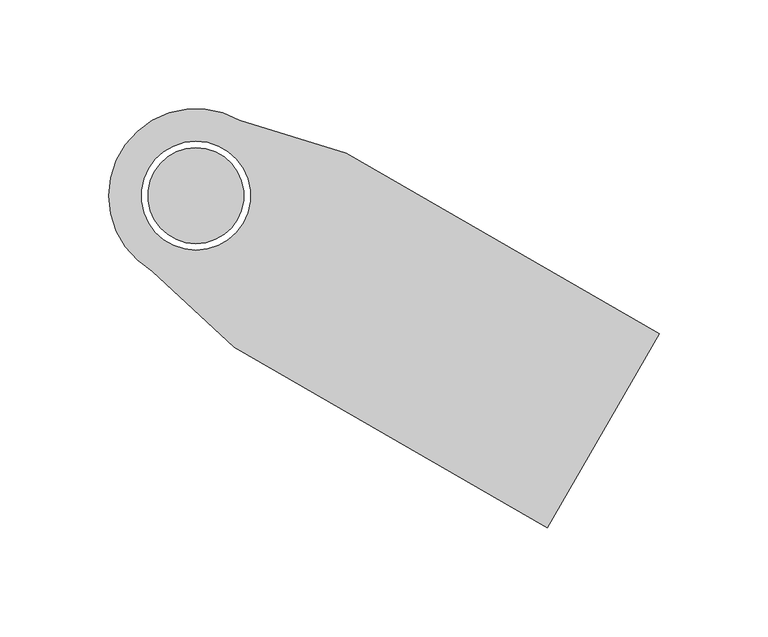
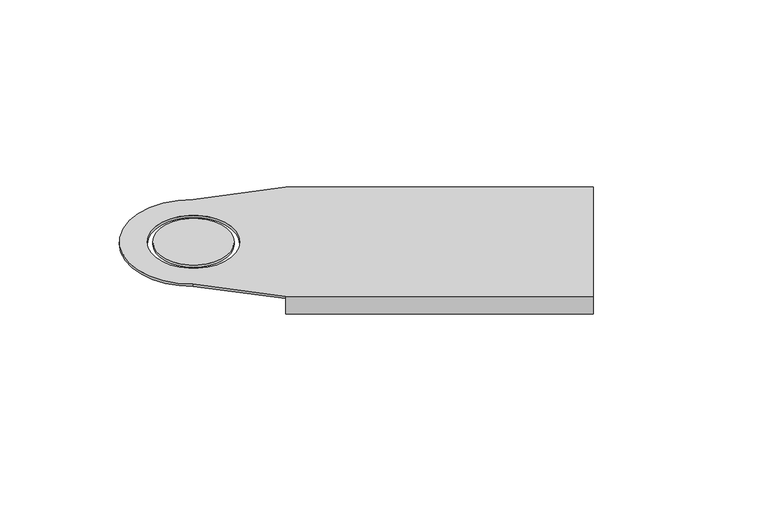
"""IFC4 building model written with IfcOpenShell, lengths in millimetres: cable carrier fitting geometry, BAKS_LDLS_BEND_Articulated connector for LLDS_LGSU : LGSUP_H100."""

import ifcopenshell
import ifcopenshell.guid

model = None  # the IFC model being written
_history = None  # IfcOwnerHistory: only IFC2X3 demands one
_inside = {}  # id of a spatial element -> (the spatial element, [elements in it])
_under = {}  # id of a project, library or spatial element -> (it, [spatial elements below it])
_declared = {}  # id of a project -> (the project, [libraries it declares])
_typed = {}  # id of a type object -> (the type object, [elements of that type])
_made_of = {}  # id of a material, layer set ... -> (it, [elements and type objects made of it])


def new_model(schema):
    """Start an empty IFC model of exactly this schema.

    Asked for "IFC4X3", IfcOpenShell would pick the latest addendum, in which some entities
    have other attributes; the version numbers below select the first issue.
    IFC2X3 requires an IfcOwnerHistory on every rooted entity: one is made here for all.
    """
    global model, _history
    if schema == "IFC4X3":
        model = ifcopenshell.file(schema_version=(4, 3, 0, 0))
    else:
        model = ifcopenshell.file(schema=schema)
    _inside.clear()
    _under.clear()
    _declared.clear()
    _typed.clear()
    _made_of.clear()
    _history = None
    if model.schema == "IFC2X3":
        org = make("IfcOrganization", Name="unknown")
        user = make(
            "IfcPersonAndOrganization",
            ThePerson=make("IfcPerson", FamilyName="unknown"),
            TheOrganization=org,
        )
        app = make(
            "IfcApplication",
            ApplicationDeveloper=org,
            Version="unknown",
            ApplicationFullName="unknown",
            ApplicationIdentifier="unknown",
        )
        _history = make(
            "IfcOwnerHistory",
            OwningUser=user,
            OwningApplication=app,
            ChangeAction="ADDED",
            CreationDate=0,
        )
    return model


def make(cls, **values):
    """One entity of the class cls with the attributes given. An attribute that is None is left unset."""
    return model.create_entity(
        cls, **{name: value for name, value in values.items() if value is not None}
    )


def rooted(cls, **values):
    """An entity with a GlobalId (a new one), such as an element, a storey or a relation."""
    return make(cls, GlobalId=ifcopenshell.guid.new(), OwnerHistory=_history, **values)


def si_unit(unit_type, name, prefix=None):
    """IfcSIUnit, for example si_unit("LENGTHUNIT", "METRE", prefix="MILLI")."""
    return make("IfcSIUnit", UnitType=unit_type, Prefix=prefix, Name=name)


def assignment(units):
    """IfcUnitAssignment: the units of a project."""
    return None if units is None else make("IfcUnitAssignment", Units=units)


def point(xyz):
    """IfcCartesianPoint."""
    return None if xyz is None else make("IfcCartesianPoint", Coordinates=xyz)


def direction(xyz):
    """IfcDirection."""
    return None if xyz is None else make("IfcDirection", DirectionRatios=xyz)


def frame(location, z_axis=None, x_axis=None):
    """IfcAxis2Placement3D, a coordinate frame: its origin and axes. An axis left out is left unset."""
    return make(
        "IfcAxis2Placement3D",
        Location=point(location),
        Axis=direction(z_axis),
        RefDirection=direction(x_axis),
    )


def origin():
    """The frame at (0, 0, 0) with its axes left unset."""
    return frame((0.0, 0.0, 0.0))


def place(relative_to, where):
    """IfcLocalPlacement: puts the frame where relative to a parent placement (None: the world)."""
    return make(
        "IfcLocalPlacement", PlacementRelTo=relative_to, RelativePlacement=where
    )


def context(
    kind, dimensions, precision=None, world=None, true_north=None, identifier=None
):
    """IfcGeometricRepresentationContext, for example the 3D "Model" context."""
    return make(
        "IfcGeometricRepresentationContext",
        ContextIdentifier=identifier,
        ContextType=kind,
        CoordinateSpaceDimension=dimensions,
        Precision=precision,
        WorldCoordinateSystem=world,
        TrueNorth=true_north,
    )


def project(units=None, contexts=None):
    """IfcProject with its units and contexts."""
    return rooted(
        "IfcProject",
        Name="project",
        RepresentationContexts=contexts,
        UnitsInContext=assignment(units),
    )


def spatial(cls, under=None, at=None, **own):
    """A site, building, storey or space (cls), placed at a placement, below another one or the project."""
    s = rooted(cls, ObjectPlacement=at, **own)
    if under is not None:
        _under.setdefault(under.id(), (under, []))[1].append(s)
    return s


def polyline(points):
    """IfcPolyline through the points."""
    return make("IfcPolyline", Points=[point(p) for p in points])


def circle_curve(where, radius):
    """IfcCircle in the frame where."""
    return make("IfcCircle", Position=where, Radius=radius)


def shape(context_of_items, identifier, shape_type, items):
    """IfcShapeRepresentation: the items that make up one representation, for example the "Body"."""
    return make(
        "IfcShapeRepresentation",
        ContextOfItems=context_of_items,
        RepresentationIdentifier=identifier,
        RepresentationType=shape_type,
        Items=items,
    )


def source(mapping_origin, context_of_items, identifier, shape_type, items):
    """IfcRepresentationMap: a shape defined once, which mapped items show again and again."""
    return make(
        "IfcRepresentationMap",
        MappingOrigin=mapping_origin,
        MappedRepresentation=shape(context_of_items, identifier, shape_type, items),
    )


def transform(
    local_origin,
    x_axis=None,
    y_axis=None,
    z_axis=None,
    scale=None,
    scale2=None,
    scale3=None,
    uniform=True,
):
    """IfcCartesianTransformationOperator3D, or its non-uniform kind. x_axis, y_axis, z_axis: its Axis1, 2, 3."""
    if uniform:
        return make(
            "IfcCartesianTransformationOperator3D",
            Axis1=direction(x_axis),
            Axis2=direction(y_axis),
            LocalOrigin=point(local_origin),
            Scale=scale,
            Axis3=direction(z_axis),
        )
    return make(
        "IfcCartesianTransformationOperator3DnonUniform",
        Axis1=direction(x_axis),
        Axis2=direction(y_axis),
        LocalOrigin=point(local_origin),
        Scale=scale,
        Axis3=direction(z_axis),
        Scale2=scale2,
        Scale3=scale3,
    )


def mapped(mapping_source, mapping_target):
    """IfcMappedItem: shows the shape of a source again, moved by a transform."""
    return make(
        "IfcMappedItem", MappingSource=mapping_source, MappingTarget=mapping_target
    )


def made_of(thing, what):
    """Note that an element or type object is made of a material, layer set ...; save() writes the relation."""
    if what is not None:
        _made_of.setdefault(what.id(), (what, []))[1].append(thing)
    return thing


def element(
    cls,
    number,
    at=None,
    inside=None,
    cuts=None,
    type_object=None,
    material=None,
    context=None,
    identifier="Body",
    shape_type=None,
    held_by="IfcProductDefinitionShape",
    body=None,
    shapes=None,
    **own,
):
    """One element of the class cls, such as IfcWall. Its Tag is "e" and its number.

    at: its placement. inside: the storey or other place that contains it. cuts: it is an
    opening in that element (IfcRelVoidsElement). A single representation is given by context,
    identifier, shape_type and body (its items); several are given by shapes. held_by: the class
    of the entity that holds the representations. save() writes the other relations.
    """
    e = rooted(cls, Tag="e%d" % number, ObjectPlacement=at, **own)
    if body is not None:
        shapes = [shape(context, identifier, shape_type, body)]
    if shapes is not None:
        e.Representation = make(held_by, Representations=shapes)
    if inside is not None:
        _inside.setdefault(inside.id(), (inside, []))[1].append(e)
    if cuts is not None:
        rooted(
            "IfcRelVoidsElement", RelatingBuildingElement=cuts, RelatedOpeningElement=e
        )
    if type_object is not None:
        _typed.setdefault(type_object.id(), (type_object, []))[1].append(e)
    return made_of(e, material)


def aggregate(whole, parts):
    """IfcRelAggregates: a whole, such as a stair, and the parts it consists of."""
    return rooted("IfcRelAggregates", RelatingObject=whole, RelatedObjects=parts)


def save(model, path):
    """Write the relations noted so far, then the file.

    IfcRelAggregates (storeys below a building ...), IfcRelContainedInSpatialStructure (elements
    in a storey), IfcRelDefinesByType, IfcRelAssociatesMaterial and IfcRelDeclares: one each for
    every whole, place, type object, material and project.
    """
    for whole, parts in _under.values():
        aggregate(whole, parts)
    for where, things in _inside.values():
        rooted(
            "IfcRelContainedInSpatialStructure",
            RelatedElements=things,
            RelatingStructure=where,
        )
    for kind, things in _typed.values():
        rooted("IfcRelDefinesByType", RelatedObjects=things, RelatingType=kind)
    for what, things in _made_of.values():
        rooted("IfcRelAssociatesMaterial", RelatedObjects=things, RelatingMaterial=what)
    for by, libraries in _declared.values():
        rooted("IfcRelDeclares", RelatingContext=by, RelatedDefinitions=libraries)
    model.write(path)


def plane_surface(at):
    """IfcPlane: the flat surface through the origin of the frame at, square to its z axis."""
    return make("IfcPlane", Position=at)


def cylinder_surface(at, radius):
    """IfcCylindricalSurface: all points at the distance radius from the z axis of the frame at."""
    return make("IfcCylindricalSurface", Position=at, Radius=radius)


def revolved_surface(curve, axis_point, axis_direction):
    """IfcSurfaceOfRevolution: the curve turned about the line through axis_point along axis_direction."""
    return make(
        "IfcSurfaceOfRevolution",
        SweptCurve=make("IfcArbitraryOpenProfileDef", ProfileType="CURVE", Curve=curve),
        AxisPosition=make("IfcAxis1Placement", Location=point(axis_point), Axis=direction(axis_direction)),
    )


def advanced_brep(points, edges, surfaces, faces):
    """IfcAdvancedBrep: a solid bounded by faces that lie on surfaces and meet in shared edges.

    An edge is (start, end): straight between two places in points (the first is 0);
    or (start, end, curve); or (start, end, curve, False) where it runs against its curve.
    A face is (place in surfaces, loops), or (place, loops, False) where it looks against
    its surface's normal. A loop lists edges by number (the first is 1), with a minus sign
    where the edge is run from its end to its start. The first loop is the outer one.
    """
    corners = [point(p) for p in points]
    vertices = [make("IfcVertexPoint", VertexGeometry=c) for c in corners]
    made = []
    for start, end, *more in edges:
        made.append(
            make(
                "IfcEdgeCurve",
                EdgeStart=vertices[start],
                EdgeEnd=vertices[end],
                EdgeGeometry=more[0] if more else make("IfcPolyline", Points=[corners[start], corners[end]]),
                SameSense=more[1] if len(more) > 1 else True,
            )
        )
    hull = []
    for where, loops, *sense in faces:
        bounds = []
        for j, loop in enumerate(loops):
            ring = [make("IfcOrientedEdge", EdgeElement=made[abs(k) - 1], Orientation=k > 0) for k in loop]
            bounds.append(
                make(
                    "IfcFaceOuterBound" if j == 0 else "IfcFaceBound",
                    Bound=make("IfcEdgeLoop", EdgeList=ring),
                    Orientation=True,
                )
            )
        hull.append(make("IfcAdvancedFace", Bounds=bounds, FaceSurface=surfaces[where], SameSense=sense[0] if sense else True))
    return make("IfcAdvancedBrep", Outer=make("IfcClosedShell", CfsFaces=hull))


def cable_carrier_fitting_8e776ff7(model_context):
    return source(origin(), model_context, "Body", "AdvancedBrep", [
        advanced_brep(
        [(161.3114872, -152.6003083, 1.5), (212.8114872, -63.3996917, 1.5), (69.0512702, 19.6003083, 1.5), (20.0, 34.6410162, 1.5), (-20.0, -34.6410162, 1.5), (17.5512702, -69.6003083, 1.5), (-21.6506351, 12.5, 1.5), (21.6506351, -12.5, 1.5), (69.0512702, 19.6003083, 0.0), (68.3012702, 18.3012702, 0.0), (212.0614872, -64.6987298, 0.0), (162.0614872, -151.3012702, 0.0), (18.3012702, -68.3012702, 0.0), (17.5512702, -69.6003083, 0.0), (-20.0, -34.6410162, 0.0), (20.0, 34.6410162, 0.0), (21.6506351, -12.5, 0.0), (-21.6506351, 12.5, 0.0), (17.5512702, -69.6003083, -10.0), (161.3114872, -152.6003083, -10.0), (212.8114872, -63.3996917, -10.0), (69.0512702, 19.6003083, -10.0), (162.0614872, -151.3012702, -10.0), (212.0614872, -64.6987298, -10.0), (68.3012702, 18.3012702, -10.0), (18.3012702, -68.3012702, -10.0)],
        [
            (0, 1),
            (1, 2),
            (2, 3),
            (3, 4, circle_curve(frame((0.0, 0.0, 1.5), z_axis=(0.0, 0.0, 1.0), x_axis=(0.8660254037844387, -0.49999999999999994, 0.0)), 40.0)),
            (4, 5),
            (5, 0),
            (6, 7, circle_curve(frame((0.0, 0.0, 1.5), z_axis=(0.0, 0.0, -1.0), x_axis=(0.8660254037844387, -0.49999999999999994, 0.0)), 25.0)),
            (7, 6, circle_curve(frame((0.0, 0.0, 1.5), z_axis=(0.0, 0.0, -1.0), x_axis=(0.8660254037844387, -0.49999999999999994, 0.0)), 25.0)),
            (8, 9),
            (9, 10),
            (10, 11),
            (11, 12),
            (12, 13),
            (13, 14),
            (14, 15, circle_curve(frame((0.0, 0.0, 0.0), z_axis=(0.0, 0.0, -1.0), x_axis=(0.8660254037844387, -0.49999999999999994, 0.0)), 40.0)),
            (15, 8),
            (16, 17, circle_curve(frame((0.0, 0.0, 0.0), z_axis=(0.0, 0.0, 1.0), x_axis=(0.8660254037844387, -0.49999999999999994, 0.0)), 25.0)),
            (17, 16, circle_curve(frame((0.0, 0.0, 0.0), z_axis=(0.0, 0.0, 1.0), x_axis=(0.8660254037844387, -0.49999999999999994, 0.0)), 25.0)),
            (5, 13),
            (13, 18),
            (18, 19),
            (19, 0),
            (1, 20),
            (20, 21),
            (21, 8),
            (8, 2),
            (19, 22),
            (22, 11),
            (10, 23),
            (23, 20),
            (7, 16),
            (17, 6),
            (4, 14),
            (3, 15),
            (23, 24),
            (24, 21),
            (9, 24),
            (18, 25),
            (25, 22),
            (12, 25),
        ],
        [
            plane_surface(frame((17.5512702, -69.6003083, 1.5), z_axis=(0.0, 0.0, 1.0), x_axis=(-0.8660254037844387, 0.49999999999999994, 0.0))),
            plane_surface(frame((17.5512702, -69.6003083, 0.0), z_axis=(0.0, 0.0, -1.0), x_axis=(0.8660254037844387, -0.49999999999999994, 0.0))),
            plane_surface(frame((161.3114872, -152.6003083, 1.5), z_axis=(-0.49999999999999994, -0.8660254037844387, 0.0), x_axis=(0.0, 0.0, -1.0))),
            plane_surface(frame((69.0512702, 19.6003083, 1.5), z_axis=(0.49999999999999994, 0.8660254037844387, 0.0), x_axis=(0.0, 0.0, -1.0))),
            plane_surface(frame((212.8114872, -63.3996917, 1.5), z_axis=(0.8660254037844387, -0.49999999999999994, 0.0), x_axis=(0.0, 0.0, -1.0))),
            revolved_surface(polyline([(21.65063509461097, -12.499999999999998, 1.5), (21.65063509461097, -12.499999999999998, 0.0)]), (0.0, 0.0, 0.0), (0.0, 0.0, 1.0)),
            plane_surface(frame((17.5512702, -69.6003083, 1.5), z_axis=(-0.6813951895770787, -0.7319157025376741, 0.0), x_axis=(0.0, 0.0, -1.0))),
            cylinder_surface(frame((0.0, 0.0, 0.0), z_axis=(0.0, 0.0, 1.0), x_axis=(0.8660254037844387, -0.49999999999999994, 0.0)), 40.0),
            plane_surface(frame((20.0, 34.6410162, 1.5), z_axis=(0.2931599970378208, 0.9560633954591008, 0.0), x_axis=(0.0, 0.0, -1.0))),
            plane_surface(frame((68.3012702, 18.3012702, -10.0), z_axis=(0.0, 0.0, -1.0), x_axis=(0.8660254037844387, -0.5, 0.0))),
            plane_surface(frame((212.0614872, -64.6987298, 0.0), z_axis=(-0.5, -0.8660254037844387, 0.0), x_axis=(0.0, 0.0, -1.0))),
            plane_surface(frame((68.3012702, 18.3012702, 0.0), z_axis=(-0.8660254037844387, 0.49999999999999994, 0.0), x_axis=(0.0, 0.0, -1.0))),
            plane_surface(frame((17.5512702, -69.6003083, -10.0), z_axis=(0.0, 0.0, -1.0), x_axis=(0.8660254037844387, -0.49999999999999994, 0.0))),
            plane_surface(frame((17.5512702, -69.6003083, 0.0), z_axis=(-0.8660254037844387, 0.49999999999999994, 0.0), x_axis=(0.0, 0.0, -1.0))),
            plane_surface(frame((18.3012702, -68.3012702, 0.0), z_axis=(0.5, 0.8660254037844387, 0.0), x_axis=(0.0, 0.0, -1.0))),
        ],
        [
            (0, [[1, 2, 3, 4, 5, 6], [7, 8]]),
            (1, [[9, 10, 11, 12, 13, 14, 15, 16], [17, 18]]),
            (2, [[19, 20, 21, 22, -6]]),
            (3, [[23, 24, 25, 26, -2]]),
            (4, [[27, 28, -11, 29, 30, -23, -1, -22]]),
            (5, [[-8, 31, -18, 32]]),
            (5, [[-17, -31, -7, -32]]),
            (6, [[33, -14, -19, -5]]),
            (7, [[34, -15, -33, -4]]),
            (8, [[-26, -16, -34, -3]]),
            (9, [[35, 36, -24, -30]]),
            (10, [[-29, -10, 37, -35]]),
            (11, [[-37, -9, -25, -36]]),
            (12, [[-21, 38, 39, -27]]),
            (13, [[-20, -13, 40, -38]]),
            (14, [[-40, -12, -28, -39]]),
        ],
    ),
        advanced_brep(
        [(-19.0525589, 11.0, 1.5), (19.0525589, -11.0, 1.5), (19.0525589, -11.0, 0.0), (-19.0525589, 11.0, 0.0)],
        [
            (0, 1, circle_curve(frame((0.0, 0.0, 1.5), z_axis=(0.0, 0.0, 1.0), x_axis=(0.8660254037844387, -0.49999999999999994, 0.0)), 22.0)),
            (1, 0, circle_curve(frame((0.0, 0.0, 1.5), z_axis=(0.0, 0.0, 1.0), x_axis=(0.8660254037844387, -0.49999999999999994, 0.0)), 22.0)),
            (2, 3, circle_curve(frame((0.0, 0.0, 0.0), z_axis=(0.0, 0.0, -1.0), x_axis=(0.8660254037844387, -0.49999999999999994, 0.0)), 22.0)),
            (3, 2, circle_curve(frame((0.0, 0.0, 0.0), z_axis=(0.0, 0.0, -1.0), x_axis=(0.8660254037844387, -0.49999999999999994, 0.0)), 22.0)),
            (1, 2),
            (3, 0),
        ],
        [
            plane_surface(frame((17.5512702, -69.6003083, 1.5), z_axis=(0.0, 0.0, 1.0), x_axis=(-0.8660254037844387, 0.49999999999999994, 0.0))),
            plane_surface(frame((17.5512702, -69.6003083, 0.0), z_axis=(0.0, 0.0, -1.0), x_axis=(0.8660254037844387, -0.49999999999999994, 0.0))),
            cylinder_surface(frame((0.0, 0.0, 0.0), z_axis=(0.0, 0.0, -1.0), x_axis=(0.8660254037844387, -0.49999999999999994, 0.0)), 22.0),
        ],
        [
            (0, [[1, 2]]),
            (1, [[3, 4]]),
            (2, [[-2, 5, -4, 6]]),
            (2, [[-3, -5, -1, -6]]),
        ],
    ),
    ])


if __name__ == "__main__":
    model = new_model("IFC4")
    model_context = context("Model", 3, world=origin())
    ifc_project = project(units=[si_unit("LENGTHUNIT", "METRE", prefix="MILLI")], contexts=[model_context])
    site = spatial("IfcSite", under=ifc_project)
    building = spatial("IfcBuilding", under=site)
    placement = place(None, origin())
    cable_carrier_fitting_shape = cable_carrier_fitting_8e776ff7(model_context)
    element("IfcCableCarrierFitting", 1, ObjectType="BAKS_LDLS_BEND_Articulated connector for LLDS_LGSU : LGSUP_H100", at=placement, inside=building, context=model_context, shape_type="MappedRepresentation", body=[
        mapped(cable_carrier_fitting_shape, transform((0.0, 0.0, 0.0), x_axis=(1.0, 0.0, 0.0), y_axis=(0.0, 1.0, 0.0), z_axis=(0.0, 0.0, 1.0))),
    ])
    save(model, "model.ifc")
